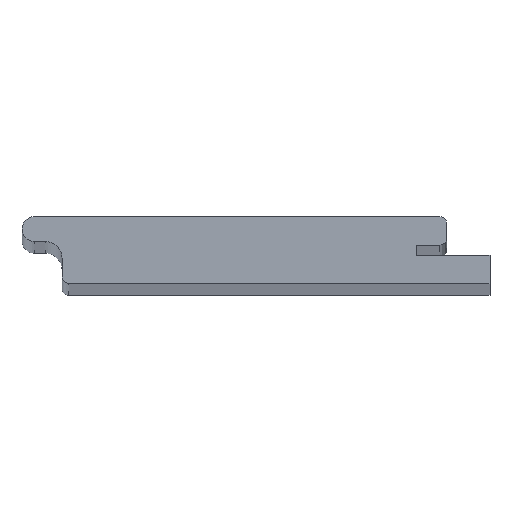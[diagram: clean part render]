
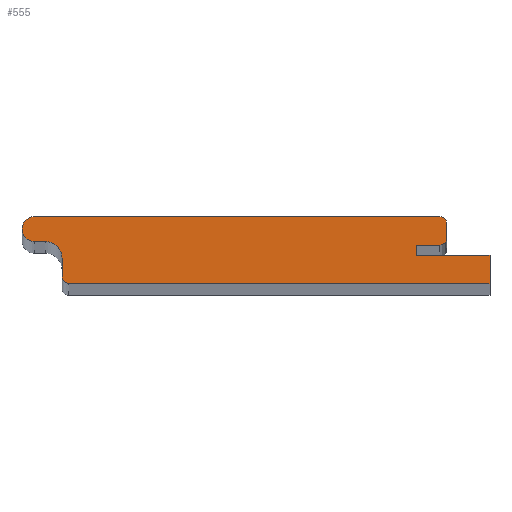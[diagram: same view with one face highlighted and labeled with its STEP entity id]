
A CAD part, top view. The second image highlights one B-rep face of the part: STEP entity #555.
In plain terms, the highlighted planar face has unit normal (0, 0, 1).
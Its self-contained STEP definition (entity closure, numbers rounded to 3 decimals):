
#84=CARTESIAN_POINT('',(12.,-12.4,2032.));
#85=VERTEX_POINT('',#84);
#92=CARTESIAN_POINT('',(7.,-7.4,2032.));
#93=VERTEX_POINT('',#92);
#94=CARTESIAN_POINT('',(7.,-12.4,2032.));
#95=DIRECTION('',(0.0,0.0,1.0));
#96=DIRECTION('',(0.707,0.707,0.0));
#97=AXIS2_PLACEMENT_3D('',#94,#95,#96);
#98=CIRCLE('',#97,5.);
#99=EDGE_CURVE('',#85,#93,#98,.T.);
#124=CARTESIAN_POINT('',(12.,-18.,2032.));
#125=VERTEX_POINT('',#124);
#132=CARTESIAN_POINT('',(12.,-12.4,2032.));
#133=DIRECTION('',(0.0,-1.0,0.0));
#134=VECTOR('',#133,5.6);
#135=LINE('',#132,#134);
#136=EDGE_CURVE('',#85,#125,#135,.T.);
#146=CARTESIAN_POINT('',(127.,-6.5,2032.));
#147=VERTEX_POINT('',#146);
#148=CARTESIAN_POINT('',(125.,-8.5,2032.));
#149=VERTEX_POINT('',#148);
#150=CARTESIAN_POINT('',(125.,-6.5,2032.));
#151=DIRECTION('',(0.0,0.0,-1.0));
#152=DIRECTION('',(0.707,-0.707,0.0));
#153=AXIS2_PLACEMENT_3D('',#150,#151,#152);
#154=CIRCLE('',#153,2.0);
#155=EDGE_CURVE('',#147,#149,#154,.T.);
#197=CARTESIAN_POINT('',(127.,-2.0,2032.));
#198=VERTEX_POINT('',#197);
#205=CARTESIAN_POINT('',(127.,-6.5,2032.));
#206=DIRECTION('',(0.0,1.0,0.0));
#207=VECTOR('',#206,4.5);
#208=LINE('',#205,#207);
#209=EDGE_CURVE('',#147,#198,#208,.T.);
#310=CARTESIAN_POINT('',(125.,0.0,2032.));
#311=VERTEX_POINT('',#310);
#312=CARTESIAN_POINT('',(125.,-2.0,2032.));
#313=DIRECTION('',(0.0,0.0,-1.0));
#314=DIRECTION('',(0.707,0.707,0.0));
#315=AXIS2_PLACEMENT_3D('',#312,#313,#314);
#316=CIRCLE('',#315,2.0);
#317=EDGE_CURVE('',#311,#198,#316,.T.);
#337=CARTESIAN_POINT('',(3.7,0.0,2032.));
#338=VERTEX_POINT('',#337);
#345=CARTESIAN_POINT('',(125.,0.0,2032.));
#346=DIRECTION('',(-1.0,0.0,0.0));
#347=VECTOR('',#346,121.3);
#348=LINE('',#345,#347);
#349=EDGE_CURVE('',#311,#338,#348,.T.);
#359=CARTESIAN_POINT('',(14.,-20.,2032.));
#360=VERTEX_POINT('',#359);
#361=CARTESIAN_POINT('',(14.,-18.,2032.));
#362=DIRECTION('',(0.0,0.0,-1.0));
#363=DIRECTION('',(-0.707,-0.707,0.0));
#364=AXIS2_PLACEMENT_3D('',#361,#362,#363);
#365=CIRCLE('',#364,2.0);
#366=EDGE_CURVE('',#360,#125,#365,.T.);
#386=CARTESIAN_POINT('',(140.0,-20.0,2032.));
#387=VERTEX_POINT('',#386);
#394=CARTESIAN_POINT('',(14.,-20.,2032.));
#395=DIRECTION('',(1.0,0.0,0.0));
#396=VECTOR('',#395,126.);
#397=LINE('',#394,#396);
#398=EDGE_CURVE('',#360,#387,#397,.T.);
#409=CARTESIAN_POINT('',(3.7,-7.4,2032.));
#410=VERTEX_POINT('',#409);
#411=CARTESIAN_POINT('',(3.7,-7.4,2032.));
#412=DIRECTION('',(1.0,0.0,0.0));
#413=VECTOR('',#412,3.3);
#414=LINE('',#411,#413);
#415=EDGE_CURVE('',#410,#93,#414,.T.);
#432=CARTESIAN_POINT('',(3.7,-3.7,2032.));
#433=DIRECTION('',(0.0,0.0,-1.0));
#434=DIRECTION('',(-0.707,-0.707,0.0));
#435=AXIS2_PLACEMENT_3D('',#432,#433,#434);
#436=CIRCLE('',#435,3.7);
#437=EDGE_CURVE('',#410,#338,#436,.T.);
#451=CARTESIAN_POINT('',(118.0,-8.5,2032.));
#452=VERTEX_POINT('',#451);
#453=CARTESIAN_POINT('',(118.,-8.5,2032.));
#454=DIRECTION('',(1.0,0.0,0.0));
#455=VECTOR('',#454,7.);
#456=LINE('',#453,#455);
#457=EDGE_CURVE('',#452,#149,#456,.T.);
#476=CARTESIAN_POINT('',(118.0,-11.5,2032.));
#477=VERTEX_POINT('',#476);
#478=CARTESIAN_POINT('',(118.0,-11.5,2032.));
#479=DIRECTION('',(0.0,1.0,0.0));
#480=VECTOR('',#479,3.0);
#481=LINE('',#478,#480);
#482=EDGE_CURVE('',#477,#452,#481,.T.);
#500=CARTESIAN_POINT('',(140.0,-11.5,2032.));
#501=VERTEX_POINT('',#500);
#502=CARTESIAN_POINT('',(140.0,-11.5,2032.));
#503=DIRECTION('',(-1.0,0.0,0.0));
#504=VECTOR('',#503,22.0);
#505=LINE('',#502,#504);
#506=EDGE_CURVE('',#501,#477,#505,.T.);
#524=CARTESIAN_POINT('',(140.0,-20.0,2032.));
#525=DIRECTION('',(0.0,1.0,0.0));
#526=VECTOR('',#525,8.5);
#527=LINE('',#524,#526);
#528=EDGE_CURVE('',#387,#501,#527,.T.);
#534=CARTESIAN_POINT('',(72.721,-9.995,2032.));
#535=DIRECTION('',(0.0,0.0,1.0));
#536=DIRECTION('',(1.0,0.0,0.0));
#537=AXIS2_PLACEMENT_3D('',#534,#535,#536);
#538=PLANE('',#537);
#539=ORIENTED_EDGE('',*,*,#155,.F.);
#540=ORIENTED_EDGE('',*,*,#209,.T.);
#541=ORIENTED_EDGE('',*,*,#317,.F.);
#542=ORIENTED_EDGE('',*,*,#349,.T.);
#543=ORIENTED_EDGE('',*,*,#437,.F.);
#544=ORIENTED_EDGE('',*,*,#415,.T.);
#545=ORIENTED_EDGE('',*,*,#99,.F.);
#546=ORIENTED_EDGE('',*,*,#136,.T.);
#547=ORIENTED_EDGE('',*,*,#366,.F.);
#548=ORIENTED_EDGE('',*,*,#398,.T.);
#549=ORIENTED_EDGE('',*,*,#528,.T.);
#550=ORIENTED_EDGE('',*,*,#506,.T.);
#551=ORIENTED_EDGE('',*,*,#482,.T.);
#552=ORIENTED_EDGE('',*,*,#457,.T.);
#553=EDGE_LOOP('',(#539,#540,#541,#542,#543,#544,#545,#546,#547,#548,#549,#550,#551,#552));
#554=FACE_OUTER_BOUND('',#553,.T.);
#555=ADVANCED_FACE('',(#554),#538,.T.);
